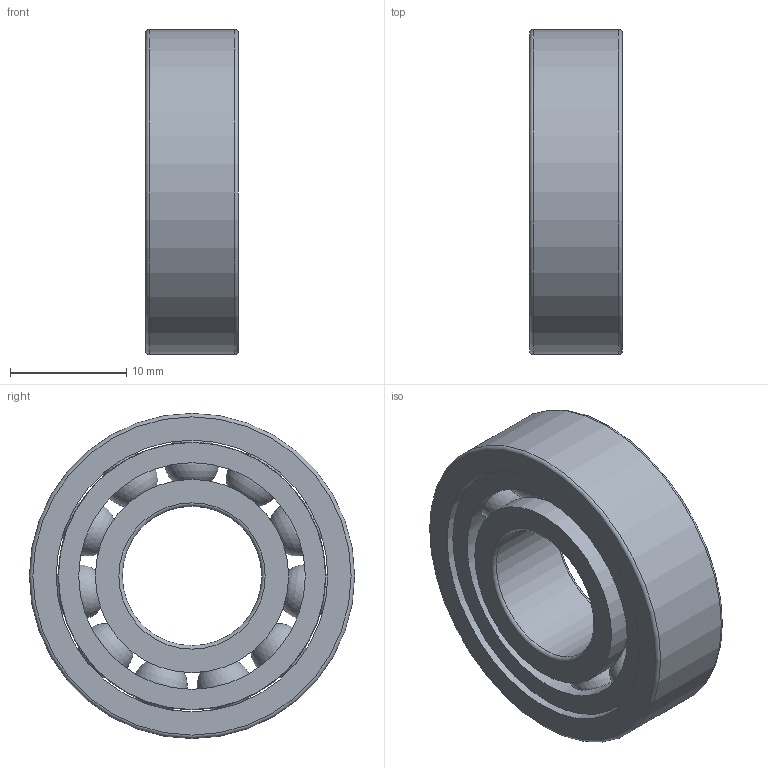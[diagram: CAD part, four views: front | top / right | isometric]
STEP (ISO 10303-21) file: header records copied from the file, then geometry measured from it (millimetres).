
FILE_DESCRIPTION(/* description */ (''),/* implementation_level */ '2;1');
FILE_NAME(/* name */ 'SM_6001_TA.step',/* time_stamp */ '2013-03-11T11:34:09+01:00',/* author */ ('Marian'),/* organization */ ('GMN'),/* preprocessor_version */ 'ST-DEVELOPER v11',/* originating_system */ 'SIEMENS UGS NX 6.0',/* authorisation */ '');
FILE_SCHEMA (('CONFIG_CONTROL_DESIGN'));
Length unit declared in the file: millimetre
Products named in the file (1): SM_6001_TA
Bounding box: 8 x 28 x 28 mm (x, y, z)
Volume: 3046.3 mm3; surface area: 4373.8 mm2
Topology: 14 solids, 14 shells, 42 faces, 100 edges, 64 vertices
Faces by surface type: cylinder 18, sphere 11, torus 6, plane 6, cone 1
Full cylindrical faces by diameter (mm): 4.962 x11, 12 x1, 16.65 x2, 19.512 x1, 23 x1, 23.4 x1, 28 x1
Entity records: 2192 total; most frequent: CARTESIAN_POINT 1392, DIRECTION 126, FACE_BOUND 95, EDGE_LOOP 84, ORIENTED_EDGE 84, AXIS2_PLACEMENT_3D 63, VERTEX_POINT 53, EDGE_CURVE 42
